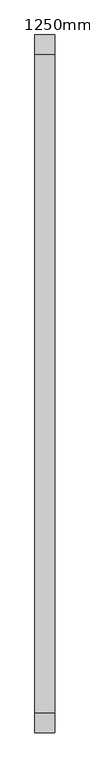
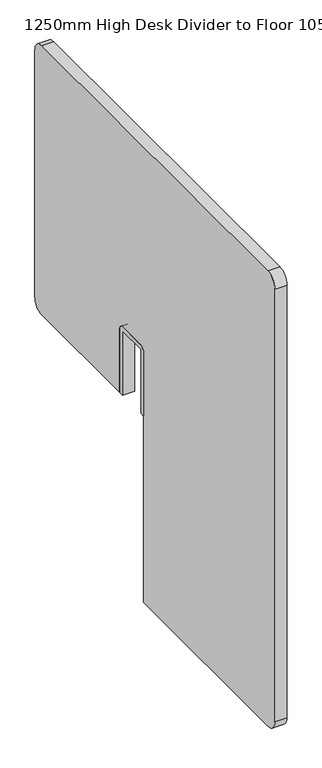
"""IFC4 building model written with IfcOpenShell, lengths in millimetres: furniture geometry, DBLTD_TheSenatorGroup_OffcDsks_Workbase_DeskDivider_FabricScreen : 1250mm High Desk Divider to Floor 1050mm."""

from ifc_helpers import new_model, si_unit, point, frame, frame_2d, origin, place, context, project, spatial, polyline, circle_curve, trimmed, segment, composite_curve, outline, extrude, source, transform, mapped, element, save


def furniture_1250mm_high_desk_divider_to_floor_1050mm_4461f920(model_context):
    return source(origin(), model_context, "Body", "SweptSolid", [
        extrude(outline(composite_curve([segment(polyline([(452.100174, 534.9538126), (440.100174, 534.9538126), (440.100174, 704.9999237), (360.100174, 704.9999237), (360.100174, 534.9538126), (348.100174, 534.9538126), (348.100174, 701.9999237)]), True, "CONTINUOUS"), segment(trimmed(circle_curve(frame_2d((363.100174, 701.9999237)), 15.0), [point((348.100174, 701.9999237))], [point((363.100174, 716.9999237))], False, "CARTESIAN"), True, "CONTINUOUS"), segment(polyline([(363.100174, 716.9999237), (437.100174, 716.9999237)]), True, "CONTINUOUS"), segment(trimmed(circle_curve(frame_2d((437.100174, 701.9999237)), 15.0), [point((437.100174, 716.9999237))], [point((452.100174, 701.9999237))], False, "CARTESIAN"), True, "CONTINUOUS"), segment(polyline([(452.100174, 701.9999237), (452.100174, 534.9538126)]), True, "CONTINUOUS")], self_intersect=False)), frame((82.4883308, 0.0, 0.0), z_axis=(1.0, 0.0, 0.0), x_axis=(0.0, 1.0, 0.0)), (0.0, 0.0, 1.0), 29.9356232),
        extrude(outline(composite_curve([segment(trimmed(circle_curve(frame_2d((792.0270271, 1220.0)), 30.0), [point((792.0270271, 1250.0))], [point((822.0270271, 1220.0))], False, "CARTESIAN"), True, "CONTINUOUS"), segment(polyline([(822.0270271, 1220.0), (822.0270271, 564.9538126)]), True, "CONTINUOUS"), segment(trimmed(circle_curve(frame_2d((792.0270271, 564.9538126)), 30.0), [point((822.0270271, 564.9538126))], [point((792.0270271, 534.9538126))], False, "CARTESIAN"), True, "CONTINUOUS"), segment(polyline([(792.0270271, 534.9538126), (452.100174, 534.9538126), (452.100174, 701.9999237)]), True, "CONTINUOUS"), segment(trimmed(circle_curve(frame_2d((437.100174, 701.9999237)), 15.0), [point((452.100174, 701.9999237))], [point((437.100174, 716.9999237))], True, "CARTESIAN"), True, "CONTINUOUS"), segment(polyline([(437.100174, 716.9999237), (363.100174, 716.9999237)]), True, "CONTINUOUS"), segment(trimmed(circle_curve(frame_2d((363.100174, 701.9999237)), 15.0), [point((363.100174, 716.9999237))], [point((348.100174, 701.9999237))], True, "CARTESIAN"), True, "CONTINUOUS"), segment(polyline([(348.100174, 701.9999237), (348.100174, 40.0), (-194.899826, 40.0)]), True, "CONTINUOUS"), segment(trimmed(circle_curve(frame_2d((-194.899826, 70.0)), 30.0), [point((-194.899826, 40.0))], [point((-224.899826, 70.0))], False, "CARTESIAN"), True, "CONTINUOUS"), segment(polyline([(-224.899826, 70.0), (-224.899826, 1220.0)]), True, "CONTINUOUS"), segment(trimmed(circle_curve(frame_2d((-194.899826, 1220.0)), 30.0), [point((-224.899826, 1220.0))], [point((-194.899826, 1250.0))], False, "CARTESIAN"), True, "CONTINUOUS"), segment(polyline([(-194.899826, 1250.0), (792.0270271, 1250.0)]), True, "CONTINUOUS")], self_intersect=False)), frame((82.4883308, 0.0, 0.0), z_axis=(1.0, 0.0, 0.0), x_axis=(0.0, 1.0, 0.0)), (0.0, 0.0, 1.0), 29.9356232),
    ])


if __name__ == "__main__":
    model = new_model("IFC4")
    model_context = context("Model", 3, world=origin())
    ifc_project = project(units=[si_unit("LENGTHUNIT", "METRE", prefix="MILLI")], contexts=[model_context])
    site = spatial("IfcSite", under=ifc_project)
    building = spatial("IfcBuilding", under=site)
    placement = place(None, origin())
    furniture_1250mm_high_desk_divider_to_floor_1050mm_shape = furniture_1250mm_high_desk_divider_to_floor_1050mm_4461f920(model_context)
    element("IfcFurniture", 1, ObjectType="DBLTD_TheSenatorGroup_OffcDsks_Workbase_DeskDivider_FabricScreen : 1250mm High Desk Divider to Floor 1050mm", at=placement, inside=building, context=model_context, shape_type="MappedRepresentation", body=[
        mapped(furniture_1250mm_high_desk_divider_to_floor_1050mm_shape, transform((0.0, 0.0, 0.0), x_axis=(1.0, 0.0, 0.0), y_axis=(0.0, 1.0, 0.0), z_axis=(0.0, 0.0, 1.0))),
    ])
    save(model, "model.ifc")
